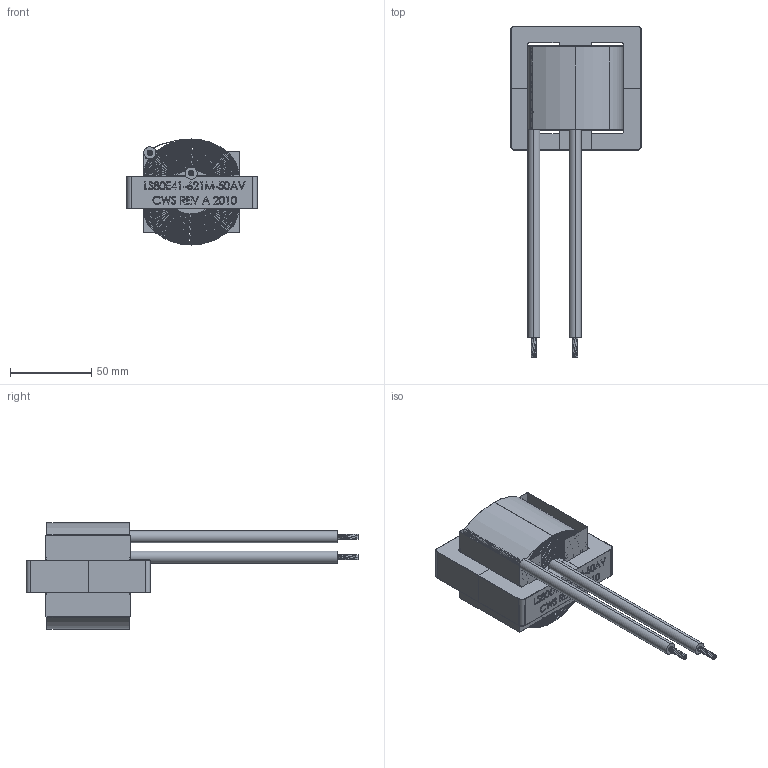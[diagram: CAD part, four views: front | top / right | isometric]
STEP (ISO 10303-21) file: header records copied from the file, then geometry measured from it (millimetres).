
FILE_DESCRIPTION (( 'STEP AP214' ), '1' );
FILE_NAME ('LS80E41-621M-50AV.STEP', '2024-06-07T10:22:06', ( '' ), ( '' ), 'SwSTEP 2.0', 'SolidWorks 2019', '' );
FILE_SCHEMA (( 'AUTOMOTIVE_DESIGN' ));
Length unit declared in the file: millimetre
Products named in the file (5): COVER; LS80E41-621M-50AV; WRAPPER; CORE; WINDING
Assembly tree (4 placements, depth 2):
  LS80E41-621M-50AV
    CORE
    WINDING
    COVER
    WRAPPER
Bounding box: 80.49 x 204.67 x 65.41 mm (x, y, z)
Volume: 160849.8 mm3; surface area: 1188889.4 mm2
Topology: 22 solids, 22 shells, 1868 faces, 5358 edges, 3572 vertices
Faces by surface type: cylinder 1096, plane 618, bspline 154
Entity records: 100415 total; most frequent: CARTESIAN_POINT 46355, DIRECTION 10768, ORIENTED_EDGE 10716, EDGE_CURVE 5358, AXIS2_PLACEMENT_3D 3969, VERTEX_POINT 3572, VECTOR 2830, LINE 2830
